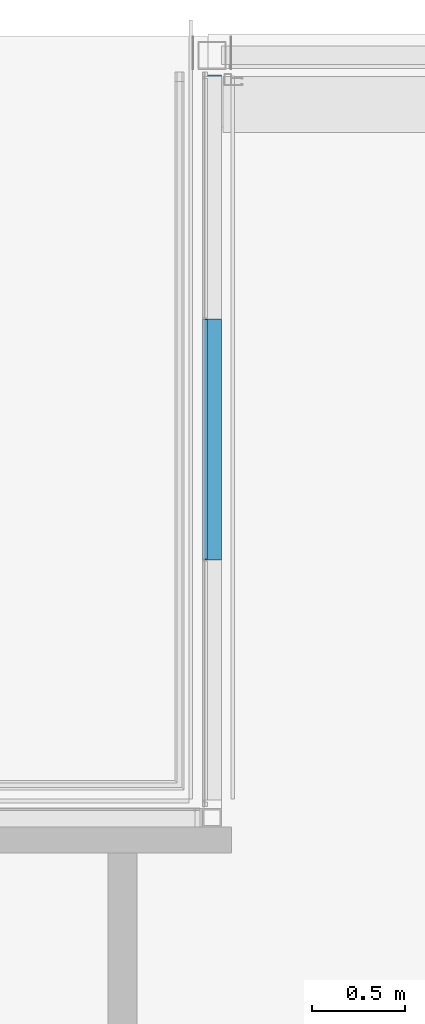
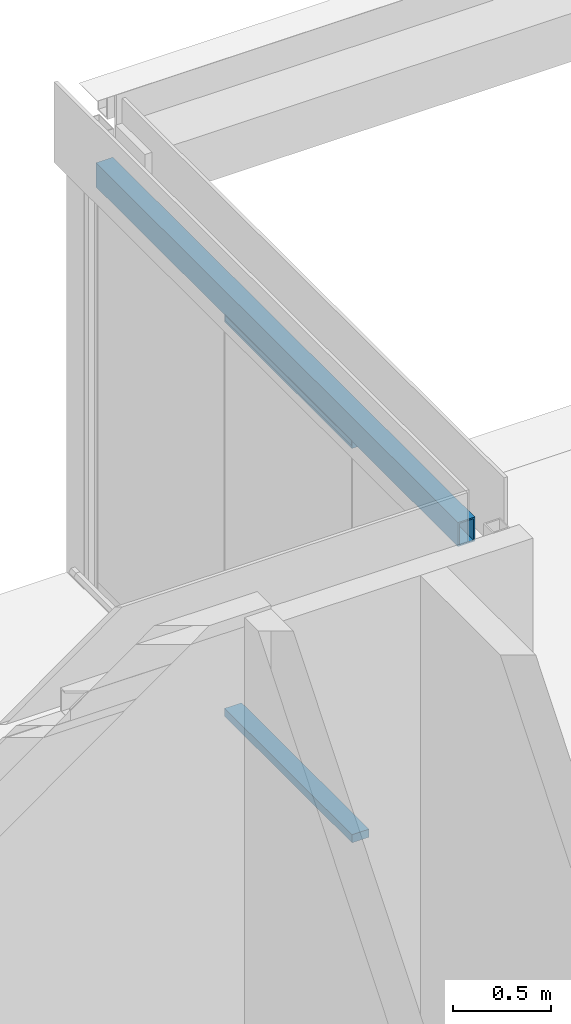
# One storey, part 4 of 37: 3 members, 1 beam, 1 element without a shape of its own.
"""IFC2X3 building model written with IfcOpenShell, lengths in millimetres."""

import ifcopenshell
import ifcopenshell.guid

model = None  # the IFC model being written
_history = None  # IfcOwnerHistory: only IFC2X3 demands one
_inside = {}  # id of a spatial element -> (the spatial element, [elements in it])
_under = {}  # id of a project, library or spatial element -> (it, [spatial elements below it])
_declared = {}  # id of a project -> (the project, [libraries it declares])
_typed = {}  # id of a type object -> (the type object, [elements of that type])
_made_of = {}  # id of a material, layer set ... -> (it, [elements and type objects made of it])


def new_model(schema):
    """Start an empty IFC model of exactly this schema.

    Asked for "IFC4X3", IfcOpenShell would pick the latest addendum, in which some entities
    have other attributes; the version numbers below select the first issue.
    IFC2X3 requires an IfcOwnerHistory on every rooted entity: one is made here for all.
    """
    global model, _history
    if schema == "IFC4X3":
        model = ifcopenshell.file(schema_version=(4, 3, 0, 0))
    else:
        model = ifcopenshell.file(schema=schema)
    _inside.clear()
    _under.clear()
    _declared.clear()
    _typed.clear()
    _made_of.clear()
    _history = None
    if model.schema == "IFC2X3":
        org = make("IfcOrganization", Name="unknown")
        user = make(
            "IfcPersonAndOrganization",
            ThePerson=make("IfcPerson", FamilyName="unknown"),
            TheOrganization=org,
        )
        app = make(
            "IfcApplication",
            ApplicationDeveloper=org,
            Version="unknown",
            ApplicationFullName="unknown",
            ApplicationIdentifier="unknown",
        )
        _history = make(
            "IfcOwnerHistory",
            OwningUser=user,
            OwningApplication=app,
            ChangeAction="ADDED",
            CreationDate=0,
        )
    return model


def make(cls, **values):
    """One entity of the class cls with the attributes given. An attribute that is None is left unset."""
    return model.create_entity(
        cls, **{name: value for name, value in values.items() if value is not None}
    )


def entity(cls, *values):
    """Any entity or typed value of the class cls, its attributes in the order of the schema. None: left unset."""
    e = model.create_entity(cls)
    for i, value in enumerate(values):
        if value is not None:
            e[i] = value
    return e


def rooted(cls, **values):
    """An entity with a GlobalId (a new one), such as an element, a storey or a relation."""
    return make(cls, GlobalId=ifcopenshell.guid.new(), OwnerHistory=_history, **values)


def si_unit(unit_type, name, prefix=None):
    """IfcSIUnit, for example si_unit("LENGTHUNIT", "METRE", prefix="MILLI")."""
    return make("IfcSIUnit", UnitType=unit_type, Prefix=prefix, Name=name)


def converted_unit(unit_type, name, factor, base, dimensions=None, offset=None):
    """IfcConversionBasedUnit, such as the inch: factor (a typed value) times the base unit."""
    return make(
        "IfcConversionBasedUnit"
        if offset is None
        else "IfcConversionBasedUnitWithOffset",
        ConversionOffset=offset,
        Dimensions=None
        if dimensions is None
        else entity("IfcDimensionalExponents", *dimensions),
        UnitType=unit_type,
        Name=name,
        ConversionFactor=make(
            "IfcMeasureWithUnit", ValueComponent=factor, UnitComponent=base
        ),
    )


def derived_unit(unit_type, elements):
    """IfcDerivedUnit: a product of units, each with its exponent."""
    return make(
        "IfcDerivedUnit",
        Elements=[
            make("IfcDerivedUnitElement", Unit=unit, Exponent=power)
            for unit, power in elements
        ],
        UnitType=unit_type,
    )


def assignment(units):
    """IfcUnitAssignment: the units of a project."""
    return None if units is None else make("IfcUnitAssignment", Units=units)


def point(xyz):
    """IfcCartesianPoint."""
    return None if xyz is None else make("IfcCartesianPoint", Coordinates=xyz)


def direction(xyz):
    """IfcDirection."""
    return None if xyz is None else make("IfcDirection", DirectionRatios=xyz)


def frame(location, z_axis=None, x_axis=None):
    """IfcAxis2Placement3D, a coordinate frame: its origin and axes. An axis left out is left unset."""
    return make(
        "IfcAxis2Placement3D",
        Location=point(location),
        Axis=direction(z_axis),
        RefDirection=direction(x_axis),
    )


def frame_2d(location, x_axis=None):
    """IfcAxis2Placement2D, a coordinate frame in the plane: its origin and x axis."""
    return make(
        "IfcAxis2Placement2D", Location=point(location), RefDirection=direction(x_axis)
    )


def origin():
    """The frame at (0, 0, 0) with its axes left unset."""
    return frame((0.0, 0.0, 0.0))


def origin_with_axes():
    """The frame at (0, 0, 0) with the z axis (0, 0, 1) and the x axis (1, 0, 0) written out."""
    return frame((0.0, 0.0, 0.0), z_axis=(0.0, 0.0, 1.0), x_axis=(1.0, 0.0, 0.0))


def origin_2d_with_axis():
    """The frame at (0, 0) in the plane with the x axis (1, 0) written out."""
    return frame_2d((0.0, 0.0), x_axis=(1.0, 0.0))


def place(relative_to, where):
    """IfcLocalPlacement: puts the frame where relative to a parent placement (None: the world)."""
    return make(
        "IfcLocalPlacement", PlacementRelTo=relative_to, RelativePlacement=where
    )


def context(
    kind, dimensions, precision=None, world=None, true_north=None, identifier=None
):
    """IfcGeometricRepresentationContext, for example the 3D "Model" context."""
    return make(
        "IfcGeometricRepresentationContext",
        ContextIdentifier=identifier,
        ContextType=kind,
        CoordinateSpaceDimension=dimensions,
        Precision=precision,
        WorldCoordinateSystem=world,
        TrueNorth=true_north,
    )


def subcontext(parent, identifier, kind, view, scale=None):
    """IfcGeometricRepresentationSubContext, for example "Body" below "Model"."""
    return make(
        "IfcGeometricRepresentationSubContext",
        ContextIdentifier=identifier,
        ContextType=kind,
        ParentContext=parent,
        TargetScale=scale,
        TargetView=view,
    )


def project(units=None, contexts=None):
    """IfcProject with its units and contexts."""
    return rooted(
        "IfcProject",
        Name="project",
        RepresentationContexts=contexts,
        UnitsInContext=assignment(units),
    )


def spatial(cls, under=None, at=None, **own):
    """A site, building, storey or space (cls), placed at a placement, below another one or the project."""
    s = rooted(cls, ObjectPlacement=at, **own)
    if under is not None:
        _under.setdefault(under.id(), (under, []))[1].append(s)
    return s


def profile(cls, at=None, kind="AREA", **sizes):
    """A parametric profile (cls). Its sizes go by their IFC names, for example OverallWidth=200.0."""
    return make(cls, ProfileType=kind, Position=at, **sizes)


def rectangle(**sizes):
    """IfcRectangleProfileDef."""
    return profile("IfcRectangleProfileDef", **sizes)


def extrude(swept, where, along, depth):
    """IfcExtrudedAreaSolid: the profile swept, set in the frame where, extruded along a direction by depth."""
    return make(
        "IfcExtrudedAreaSolid",
        SweptArea=swept,
        Position=where,
        ExtrudedDirection=direction(along),
        Depth=depth,
    )


def boolean(op, a, b):
    """IfcBooleanResult of two solids."""
    return make("IfcBooleanResult", Operator=op, FirstOperand=a, SecondOperand=b)


def shape(context_of_items, identifier, shape_type, items):
    """IfcShapeRepresentation: the items that make up one representation, for example the "Body"."""
    return make(
        "IfcShapeRepresentation",
        ContextOfItems=context_of_items,
        RepresentationIdentifier=identifier,
        RepresentationType=shape_type,
        Items=items,
    )


def source(mapping_origin, context_of_items, identifier, shape_type, items):
    """IfcRepresentationMap: a shape defined once, which mapped items show again and again."""
    return make(
        "IfcRepresentationMap",
        MappingOrigin=mapping_origin,
        MappedRepresentation=shape(context_of_items, identifier, shape_type, items),
    )


def transform(
    local_origin,
    x_axis=None,
    y_axis=None,
    z_axis=None,
    scale=None,
    scale2=None,
    scale3=None,
    uniform=True,
):
    """IfcCartesianTransformationOperator3D, or its non-uniform kind. x_axis, y_axis, z_axis: its Axis1, 2, 3."""
    if uniform:
        return make(
            "IfcCartesianTransformationOperator3D",
            Axis1=direction(x_axis),
            Axis2=direction(y_axis),
            LocalOrigin=point(local_origin),
            Scale=scale,
            Axis3=direction(z_axis),
        )
    return make(
        "IfcCartesianTransformationOperator3DnonUniform",
        Axis1=direction(x_axis),
        Axis2=direction(y_axis),
        LocalOrigin=point(local_origin),
        Scale=scale,
        Axis3=direction(z_axis),
        Scale2=scale2,
        Scale3=scale3,
    )


def mapped(mapping_source, mapping_target):
    """IfcMappedItem: shows the shape of a source again, moved by a transform."""
    return make(
        "IfcMappedItem", MappingSource=mapping_source, MappingTarget=mapping_target
    )


def material(Name=None, Category=None):
    """IfcMaterial."""
    return make("IfcMaterial", Name=Name, Category=Category)


def made_of(thing, what):
    """Note that an element or type object is made of a material, layer set ...; save() writes the relation."""
    if what is not None:
        _made_of.setdefault(what.id(), (what, []))[1].append(thing)
    return thing


def type_object(cls, material=None, **own):
    """A type object (cls), such as IfcWallType, which elements share."""
    return made_of(rooted(cls, **own), material)


def element(
    cls,
    number,
    at=None,
    inside=None,
    cuts=None,
    type_object=None,
    material=None,
    context=None,
    identifier="Body",
    shape_type=None,
    held_by="IfcProductDefinitionShape",
    body=None,
    shapes=None,
    **own,
):
    """One element of the class cls, such as IfcWall. Its Tag is "e" and its number.

    at: its placement. inside: the storey or other place that contains it. cuts: it is an
    opening in that element (IfcRelVoidsElement). A single representation is given by context,
    identifier, shape_type and body (its items); several are given by shapes. held_by: the class
    of the entity that holds the representations. save() writes the other relations.
    """
    e = rooted(cls, Tag="e%d" % number, ObjectPlacement=at, **own)
    if body is not None:
        shapes = [shape(context, identifier, shape_type, body)]
    if shapes is not None:
        e.Representation = make(held_by, Representations=shapes)
    if inside is not None:
        _inside.setdefault(inside.id(), (inside, []))[1].append(e)
    if cuts is not None:
        rooted(
            "IfcRelVoidsElement", RelatingBuildingElement=cuts, RelatedOpeningElement=e
        )
    if type_object is not None:
        _typed.setdefault(type_object.id(), (type_object, []))[1].append(e)
    return made_of(e, material)


def aggregate(whole, parts):
    """IfcRelAggregates: a whole, such as a stair, and the parts it consists of."""
    return rooted("IfcRelAggregates", RelatingObject=whole, RelatedObjects=parts)


def save(model, path):
    """Write the relations noted so far, then the file.

    IfcRelAggregates (storeys below a building ...), IfcRelContainedInSpatialStructure (elements
    in a storey), IfcRelDefinesByType, IfcRelAssociatesMaterial and IfcRelDeclares: one each for
    every whole, place, type object, material and project.
    """
    for whole, parts in _under.values():
        aggregate(whole, parts)
    for where, things in _inside.values():
        rooted(
            "IfcRelContainedInSpatialStructure",
            RelatedElements=things,
            RelatingStructure=where,
        )
    for kind, things in _typed.values():
        rooted("IfcRelDefinesByType", RelatedObjects=things, RelatingType=kind)
    for what, things in _made_of.values():
        rooted("IfcRelAssociatesMaterial", RelatedObjects=things, RelatingMaterial=what)
    for by, libraries in _declared.values():
        rooted("IfcRelDeclares", RelatingContext=by, RelatedDefinitions=libraries)
    model.write(path)


model = new_model("IFC2X3")

# Units and contexts
model_context = context("Model", 3, precision=0.01, world=frame((0.0, 4.29681676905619e-09, 0.0)), true_north=direction((4.01073788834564e-13, 1.0)))
plan_context = context("Plan", 3, precision=0.01, world=frame((0.0, 4.29681676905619e-09, 0.0)), true_north=direction((4.01073788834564e-13, 1.0)))
body_context = subcontext(model_context, "Body", "Model", "MODEL_VIEW")
ifc_project = project(units=[converted_unit("PLANEANGLEUNIT", "DEGREE", entity("IfcPositiveLengthMeasure", 0.0174532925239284), si_unit("PLANEANGLEUNIT", "RADIAN"), dimensions=[0, 0, 0, 0, 0, 0, 0]), si_unit("AREAUNIT", "SQUARE_METRE"), si_unit("LENGTHUNIT", "METRE", prefix="MILLI"), si_unit("MASSUNIT", "GRAM", prefix="KILO"), si_unit("POWERUNIT", "WATT"), si_unit("PRESSUREUNIT", "PASCAL"), si_unit("FORCEUNIT", "NEWTON", prefix="KILO"), si_unit("ELECTRICVOLTAGEUNIT", "VOLT"), si_unit("ELECTRICCURRENTUNIT", "AMPERE"), si_unit("THERMODYNAMICTEMPERATUREUNIT", "DEGREE_CELSIUS"), si_unit("TIMEUNIT", "SECOND"), si_unit("VOLUMEUNIT", "CUBIC_METRE"), derived_unit("LINEARVELOCITYUNIT", [(si_unit("LENGTHUNIT", "METRE"), 1), (si_unit("TIMEUNIT", "SECOND"), -1)]), derived_unit("VOLUMETRICFLOWRATEUNIT", [(si_unit("VOLUMEUNIT", "CUBIC_METRE"), 1), (si_unit("TIMEUNIT", "SECOND"), -1)]), derived_unit("THERMALTRANSMITTANCEUNIT", [(si_unit("POWERUNIT", "WATT"), 1), (si_unit("THERMODYNAMICTEMPERATUREUNIT", "KELVIN"), -1), (si_unit("AREAUNIT", "SQUARE_METRE"), -1)]), derived_unit("SOUNDPRESSUREUNIT", [(si_unit("PRESSUREUNIT", "PASCAL"), 1)])], contexts=[model_context, plan_context])

# Site, building, storey
site_placement = place(None, origin_with_axes())
site = spatial("IfcSite", under=ifc_project, at=site_placement, Name="ENGM", CompositionType="ELEMENT")
building_placement = place(site_placement, origin_with_axes())
building = spatial("IfcBuilding", under=site, at=building_placement, Name="TS", CompositionType="ELEMENT")
storey_placement = place(building_placement, frame((0.0, 0.0, 210900.0), z_axis=(0.0, 0.0, 1.0), x_axis=(1.0, 0.0, 0.0)))
storey = spatial("IfcBuildingStorey", under=building, at=storey_placement, Name="Nivå F", CompositionType="ELEMENT", Elevation=210900.0)

# Curtain wall, members
curtain_wall_type = type_object("IfcCurtainWallType", Name="Curtain Wall:A242 - IGV - Glass - 10 mm", PredefinedType="NOTDEFINED")
curtain_wall_placement = place(storey_placement, frame((0.0, 0.0, -210900.0), z_axis=(0.0, 0.0, 1.0), x_axis=(1.0, 0.0, 0.0)))
curtain_wall = element("IfcCurtainWall", 1, at=curtain_wall_placement, inside=storey, type_object=curtain_wall_type, Name="Curtain Wall:A242 - IGV - Glass - 10 mm", ObjectType="Curtain Wall:A242 - IGV - Glass - 10 mm")
ifc_material_1 = material(Name="Metal - Aluminium")
member_type_1 = type_object("IfcMemberType", Name="Rectangular Mullion:A233 - Sprosse rektangulær - 50 x 100 mm", PredefinedType="MULLION", material=ifc_material_1)
shared_shape_1 = source(origin(), body_context, "Body", "SweptSolid", [
    extrude(rectangle(XDim=50.0, YDim=100.0, at=origin_2d_with_axis()), frame((-25.0, 50.0, -1296.66666666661), z_axis=(0.0, 0.0, 1.0), x_axis=(-1.0, 0.0, 0.0)), (0.0, 0.0, 1.0), 1296.66666666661),
])
member_1_placement = place(curtain_wall_placement, frame((524920.000000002, 459086.666666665, 210905.0), z_axis=(0.0, -1.0, 0.0), x_axis=(0.0, 0.0, -1.0)))
member_1 = element("IfcMember", 2, at=member_1_placement, type_object=member_type_1, material=ifc_material_1, Name="Rectangular Mullion:A233 - Sprosse rektangulær - 50 x 100 mm", ObjectType="Rectangular Mullion:A233 - Sprosse rektangulær - 50 x 100 mm", context=body_context, shape_type="MappedRepresentation", body=[
    mapped(shared_shape_1, transform((0.0, 0.0, 0.0), scale=1.0)),
])
member_type_2 = type_object("IfcMemberType", Name="Rectangular Mullion:A233 - Sprosse rektangulær - 50 x 100 mm", PredefinedType="MULLION", material=ifc_material_1)
shared_shape_2 = source(origin(), body_context, "Body", "SweptSolid", [
    extrude(rectangle(XDim=50.0, YDim=100.0, at=origin_2d_with_axis()), frame((0.0, 50.0, -1296.66666666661), z_axis=(0.0, 0.0, 1.0), x_axis=(-1.0, 0.0, 0.0)), (0.0, 0.0, 1.0), 1296.66666666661),
])
member_2_placement = place(curtain_wall_placement, frame((524920.000000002, 460383.333333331, 213380.0), z_axis=(0.0, 1.0, 0.0), x_axis=(0.0, 0.0, 1.0)))
member_2 = element("IfcMember", 3, at=member_2_placement, type_object=member_type_2, material=ifc_material_1, Name="Rectangular Mullion:A233 - Sprosse rektangulær - 50 x 100 mm", ObjectType="Rectangular Mullion:A233 - Sprosse rektangulær - 50 x 100 mm", context=body_context, shape_type="MappedRepresentation", body=[
    mapped(shared_shape_2, transform((0.0, 0.0, 0.0), scale=1.0)),
])
ifc_material_2 = material(Name="T2 - Rubber")
member_type_3 = type_object("IfcMemberType", Name="Rectangular Mullion:A233 - Sprosse - 00(post)+25(fuge inkl glass) x 30 mm", PredefinedType="MULLION", material=ifc_material_2)
shared_shape_3 = source(origin(), body_context, "Body", "SweptSolid", [
    extrude(rectangle(XDim=30.0, YDim=25.0, at=origin_2d_with_axis()), frame((-15.0, 12.5, -1286.66666666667), z_axis=(0.0, 0.0, 1.0), x_axis=(-1.0, 0.0, 0.0)), (0.0, 0.0, 1.0), 1286.66666666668),
])
member_3_placement = place(curtain_wall_placement, frame((524920.000000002, 460378.333333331, 213400.0), z_axis=(0.0, 1.0, 0.0), x_axis=(0.0, 0.0, 1.0)))
member_3 = element("IfcMember", 4, at=member_3_placement, type_object=member_type_3, material=ifc_material_2, Name="Rectangular Mullion:A233 - Sprosse - 00(post)+25(fuge inkl glass) x 30 mm", ObjectType="Rectangular Mullion:A233 - Sprosse - 00(post)+25(fuge inkl glass) x 30 mm", context=body_context, shape_type="MappedRepresentation", body=[
    mapped(shared_shape_3, transform((0.0, 0.0, 0.0), scale=1.0)),
])
aggregate(curtain_wall, [member_1, member_2, member_3])

# Beam
ifc_material_3 = material(Name="_NSW Stål")
beam_type = type_object("IfcBeamType", Name="B223 - Bjelke - HUP1:B223 - HUP 100 x 150 x 8 mm", PredefinedType="BEAM")
beam_placement = place(storey_placement, frame((524969.999999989, 461694.499999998, 2500.0), z_axis=(0.0, 0.0, 1.0), x_axis=(0.0, -1.0, 0.0)))
element("IfcBeam", 5, at=beam_placement, inside=storey, type_object=beam_type, material=ifc_material_3, Name="B223 - Bjelke - HUP1:B223 - HUP 100 x 150 x 8 mm", ObjectType="B223 - Bjelke - HUP1:B223 - HUP 100 x 150 x 8 mm", context=body_context, shape_type="SweptSolid", body=[
    boolean("DIFFERENCE", extrude(rectangle(XDim=150.000000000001, YDim=100.000000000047, at=origin_2d_with_axis()), frame((0.0, 0.0, 75.0), z_axis=(1.0, 0.0, 0.0), x_axis=(0.0, 0.0, -1.0)), (0.0, 0.0, 1.0), 3687.49999999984), extrude(rectangle(XDim=134.000000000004, YDim=83.9999999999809, at=frame_2d((-3.46531692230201e-11, 0.0), x_axis=(0.0, 1.0))), frame((0.0, 0.0, 75.0), z_axis=(1.0, 0.0, 0.0), x_axis=(0.0, -1.0, 0.0)), (0.0, 0.0, 1.0), 3687.49999999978)),
])

save(model, "model.ifc")
